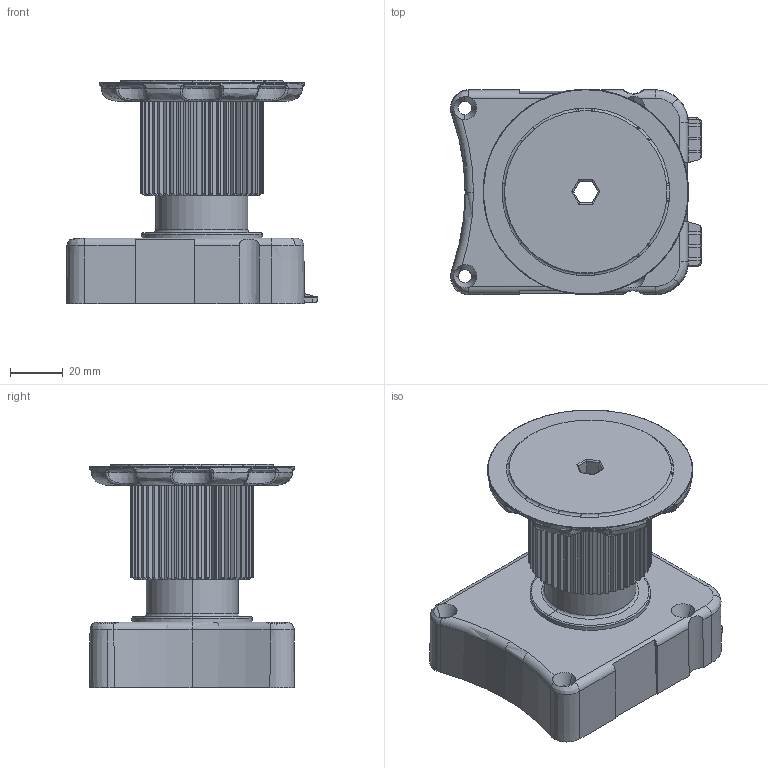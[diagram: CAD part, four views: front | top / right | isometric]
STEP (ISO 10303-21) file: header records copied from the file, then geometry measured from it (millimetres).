
FILE_DESCRIPTION (( 'STEP AP214' ), '1' );
FILE_NAME ('540908.STEP', '2020-02-24T14:53:31', ( '' ), ( '' ), 'SwSTEP 2.0', 'SolidWorks 2019', '' );
FILE_SCHEMA (( 'AUTOMOTIVE_DESIGN' ));
Length unit declared in the file: millimetre
Products named in the file (1): 540908
Bounding box: 95.5 x 78.07 x 85 mm (x, y, z)
Volume: 202962.8 mm3; surface area: 67442.3 mm2
Topology: 3 solids, 3 shells, 630 faces, 1831 edges, 1204 vertices
Faces by surface type: plane 268, cylinder 160, bspline 118, cone 45, torus 39
Entity records: 38934 total; most frequent: CARTESIAN_POINT 16575, ORIENTED_EDGE 3646, DIRECTION 2749, EDGE_CURVE 1823, VERTEX_POINT 1204, AXIS2_PLACEMENT_3D 1055, EDGE_LOOP 649, LINE 639
